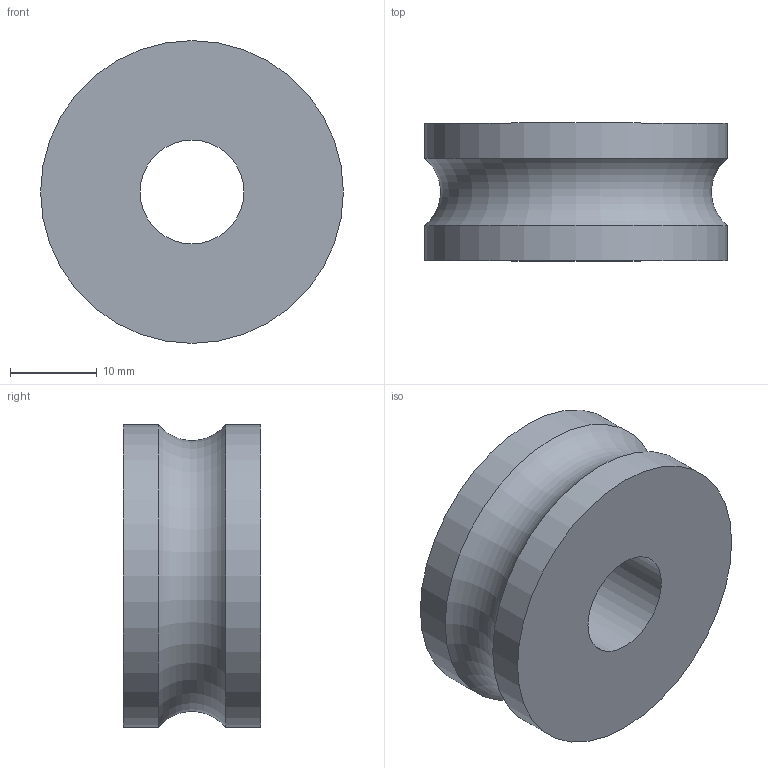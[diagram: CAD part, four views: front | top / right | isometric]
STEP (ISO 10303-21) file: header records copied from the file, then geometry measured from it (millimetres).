
FILE_DESCRIPTION (( 'STEP AP214' ), '1' );
FILE_NAME ('LFR5201KDD.STEP', '2020-05-12T02:02:24', ( '' ), ( '' ), 'SwSTEP 2.0', 'SolidWorks 2019', '' );
FILE_SCHEMA (( 'AUTOMOTIVE_DESIGN' ));
Length unit declared in the file: millimetre
Products named in the file (1): LFR5201KDD
Bounding box: 35 x 15.9 x 35 mm (x, y, z)
Volume: 12447.1 mm3; surface area: 4101.6 mm2
Topology: 1 solids, 1 shells, 6 faces, 10 edges, 6 vertices
Faces by surface type: cylinder 3, plane 2, torus 1
Full cylindrical faces by diameter (mm): 12 x1, 35 x2
Entity records: 162 total; most frequent: DIRECTION 26, CARTESIAN_POINT 19, AXIS2_PLACEMENT_3D 13, ORIENTED_EDGE 12, EDGE_LOOP 12, FACE_OUTER_BOUND 10, ADVANCED_FACE 6, CIRCLE 6
